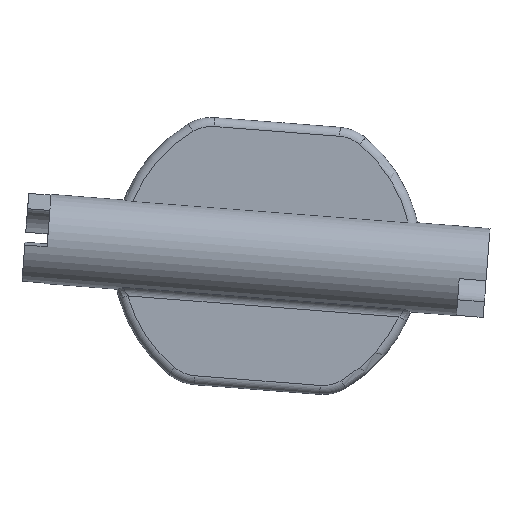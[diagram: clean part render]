
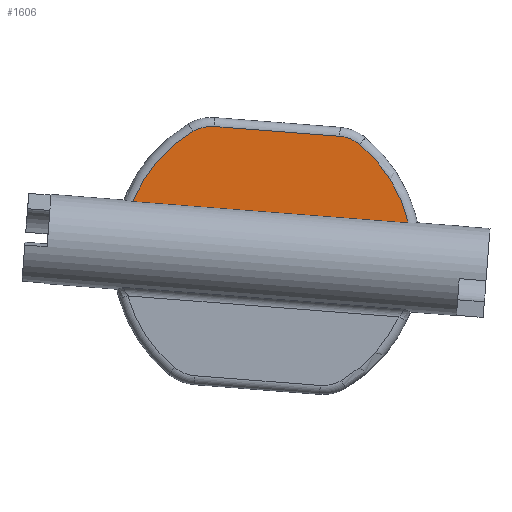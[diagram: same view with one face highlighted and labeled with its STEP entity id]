
A CAD part, front view. The second image highlights one B-rep face of the part: STEP entity #1606.
In plain terms, the highlighted planar face has unit normal (0, -1, 0).
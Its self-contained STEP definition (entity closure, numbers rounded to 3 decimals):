
#1=DIRECTION('',(0.997,0.,-0.077));
#2=VECTOR('',#1,30.925);
#3=CARTESIAN_POINT('',(1065.613,-1.,110.001));
#4=LINE('',#3,#2);
#5=CARTESIAN_POINT('',(1080.65,-1.,103.922));
#6=DIRECTION('',(0.,1.,0.));
#7=DIRECTION('',(-0.927,0.,0.375));
#8=AXIS2_PLACEMENT_3D('',#5,#6,#7);
#10=CARTESIAN_POINT('',(1074.393,-1.,114.418));
#11=DIRECTION('',(0.,1.,0.));
#12=DIRECTION('',(-0.512,0.,0.859));
#13=AXIS2_PLACEMENT_3D('',#10,#11,#12);
#15=DIRECTION('',(0.997,0.,-0.077));
#16=VECTOR('',#15,14.1);
#17=CARTESIAN_POINT('',(1074.702,-1.,118.406));
#18=LINE('',#17,#16);
#19=CARTESIAN_POINT('',(1088.45,-1.,113.328));
#20=DIRECTION('',(0.,1.,0.));
#21=DIRECTION('',(0.077,0.,0.997));
#22=AXIS2_PLACEMENT_3D('',#19,#20,#21);
#24=CARTESIAN_POINT('',(1080.65,-1.,103.922));
#25=DIRECTION('',(0.,1.,0.));
#26=DIRECTION('',(0.638,0.,0.77));
#27=AXIS2_PLACEMENT_3D('',#24,#25,#26);
#1388=CARTESIAN_POINT('',(1065.613,-1.,110.001));
#1389=CARTESIAN_POINT('',(1096.445,-1.,107.611));
#1390=VERTEX_POINT('',#1388);
#1391=VERTEX_POINT('',#1389);
#1579=CARTESIAN_POINT('',(1088.76,-1.,117.316));
#1580=CARTESIAN_POINT('',(1091.004,-1.,116.407));
#1581=VERTEX_POINT('',#1579);
#1582=VERTEX_POINT('',#1580);
#1583=CARTESIAN_POINT('',(1072.345,-1.,117.854));
#1584=VERTEX_POINT('',#1583);
#1585=CARTESIAN_POINT('',(1074.702,-1.,118.406));
#1586=VERTEX_POINT('',#1585);
#1587=CARTESIAN_POINT('',(0.,-1.,0.));
#1588=DIRECTION('',(0.,1.,0.));
#1589=DIRECTION('',(1.,0.,0.));
#1590=AXIS2_PLACEMENT_3D('',#1587,#1588,#1589);
#1591=PLANE('',#1590);
#1593=ORIENTED_EDGE('',*,*,#1592,.F.);
#1595=ORIENTED_EDGE('',*,*,#1594,.T.);
#1597=ORIENTED_EDGE('',*,*,#1596,.T.);
#1599=ORIENTED_EDGE('',*,*,#1598,.T.);
#1601=ORIENTED_EDGE('',*,*,#1600,.T.);
#1603=ORIENTED_EDGE('',*,*,#1602,.T.);
#1604=EDGE_LOOP('',(#1593,#1595,#1597,#1599,#1601,#1603));
#1605=FACE_OUTER_BOUND('',#1604,.F.);
#1606=ADVANCED_FACE('',(#1605),#1591,.F.);
#9=CIRCLE('',#8,16.22);
#14=CIRCLE('',#13,4.);
#23=CIRCLE('',#22,4.);
#28=CIRCLE('',#27,16.22);
#1592=EDGE_CURVE('',#1390,#1391,#4,.T.);
#1594=EDGE_CURVE('',#1390,#1584,#9,.T.);
#1596=EDGE_CURVE('',#1584,#1586,#14,.T.);
#1598=EDGE_CURVE('',#1586,#1581,#18,.T.);
#1600=EDGE_CURVE('',#1581,#1582,#23,.T.);
#1602=EDGE_CURVE('',#1582,#1391,#28,.T.);
